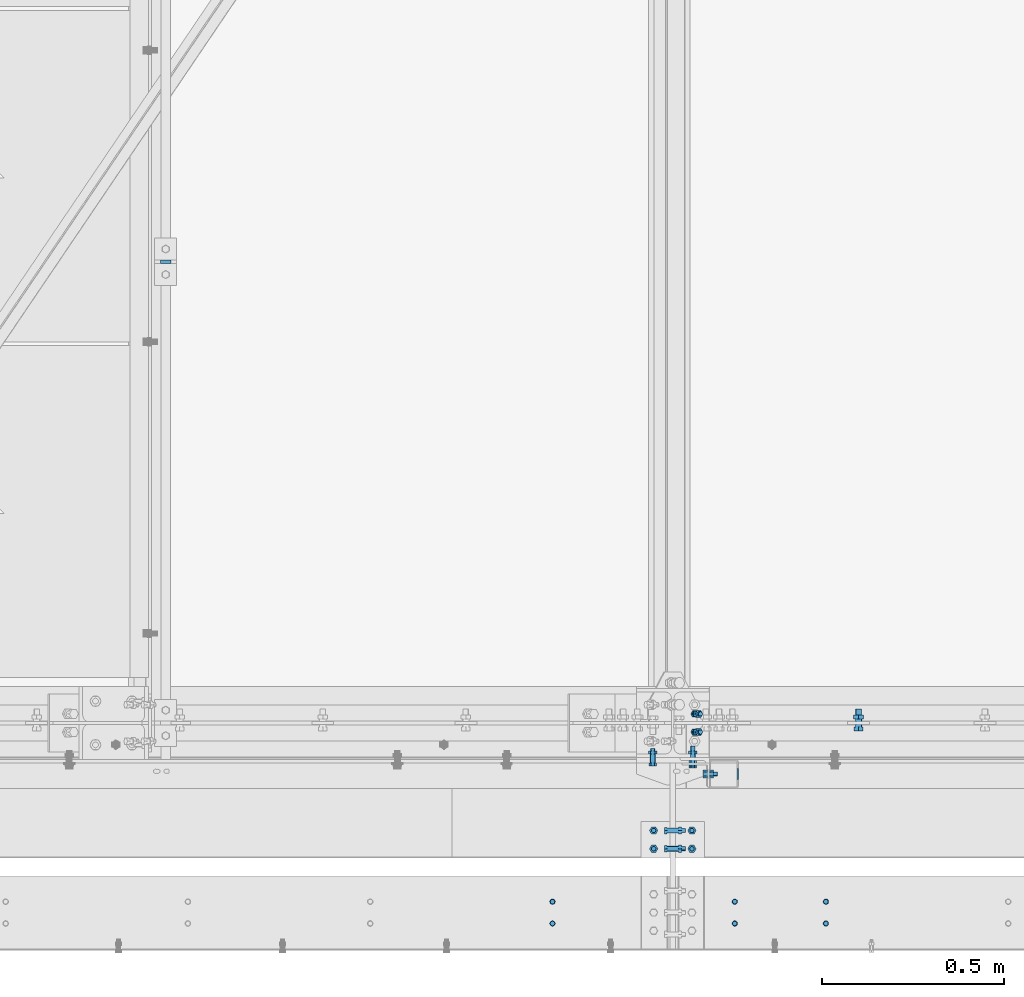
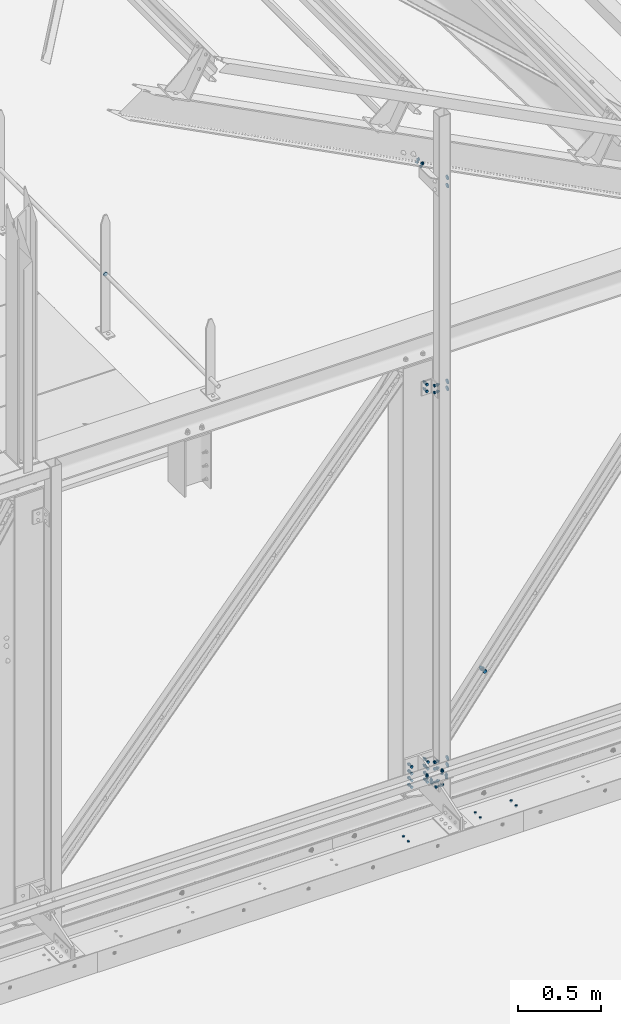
# One storey, part 268 of 362: 19 mechanical fasteners.
"""IFC2X3 building model written with IfcOpenShell, lengths in millimetres."""

from ifc_helpers import new_model, si_unit, frame, frame_2d, origin_with_axes, origin_2d_with_axis, place, context, subcontext, project, spatial, polyline, circle_curve, parameter, trimmed, segment, composite_curve, circle, outline, extrude, source, transform, mapped, material, type_object, element, save


model = new_model("IFC2X3")

# Units and contexts
model_context = context("Model", 3, precision=1e-05, world=origin_with_axes())
body_context = subcontext(model_context, "Body", "Model", "MODEL_VIEW")
ifc_project = project(units=[si_unit("LENGTHUNIT", "METRE", prefix="MILLI"), si_unit("AREAUNIT", "SQUARE_METRE"), si_unit("VOLUMEUNIT", "CUBIC_METRE"), si_unit("MASSUNIT", "GRAM", prefix="KILO"), si_unit("TIMEUNIT", "SECOND"), si_unit("PLANEANGLEUNIT", "RADIAN"), si_unit("SOLIDANGLEUNIT", "STERADIAN"), si_unit("THERMODYNAMICTEMPERATUREUNIT", "DEGREE_CELSIUS"), si_unit("LUMINOUSINTENSITYUNIT", "LUMEN")], contexts=[model_context])

# Site, building, storey
site_placement = place(None, origin_with_axes())
site = spatial("IfcSite", under=ifc_project, at=site_placement, Name="Undefined", CompositionType="ELEMENT")
building_placement = place(site_placement, origin_with_axes())
building = spatial("IfcBuilding", under=site, at=building_placement, Name="Undefined", CompositionType="ELEMENT")
storey_placement = place(building_placement, origin_with_axes())
storey = spatial("IfcBuildingStorey", under=building, at=storey_placement, Name="Undefined", CompositionType="ELEMENT", Elevation=0.0)

# Mechanical fasteners
ifc_material_1 = material(Name="8.8-SB-ZINGUE")
mechanical_fastener_type = type_object("IfcMechanicalFastenerType", Name="Bolt assembly")
shared_shape_1 = source(origin_with_axes(), body_context, "Body", "SweptSolid", [
    extrude(circle(Radius=7.0, at=origin_2d_with_axis()), frame((0.0, -8.5, 0.0), z_axis=(0.0, 1.0, 0.0), x_axis=(1.0, 0.0, 0.0)), (0.0, 0.0, 1.0), 8.6),
])
for number, where, z_axis, x_axis, name in (
    (1, (25844.9989211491, -490.0, 5229.99824538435), (-1.0, 0.0, 0.0), (0.0, -1.0, 0.0), "Bolt assembly"),
    (2, (26344.9989211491, -490.0, 5229.99824538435), (-1.0, 0.0, 0.0), (0.0, -1.0, 0.0), "Bolt assembly"),
    (3, (26594.9989211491, -490.0, 5229.99824538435), (-1.0, 0.0, 0.0), (0.0, -1.0, 0.0), "Bolt assembly"),
):
    element("IfcMechanicalFastener", number, at=place(storey_placement, frame(where, z_axis=z_axis, x_axis=x_axis)), inside=storey, type_object=mechanical_fastener_type, material=ifc_material_1, Name=name, NominalDiameter=12.0, NominalLength=8.5, context=body_context, shape_type="MappedRepresentation", body=[
        mapped(shared_shape_1, transform((0.0, 0.0, 0.0))),
        mapped(shared_shape_1, transform((60.0, 0.0, 0.0))),
    ])
shared_shape_2 = source(origin_with_axes(), body_context, "Body", "SweptSolid", [
    extrude(circle(Radius=7.0, at=origin_2d_with_axis()), frame((0.0, -7.5, 0.0), z_axis=(0.0, 1.0, 0.0), x_axis=(1.0, 0.0, 0.0)), (0.0, 0.0, 1.0), 15.0),
    extrude(circle(Radius=7.0, at=origin_2d_with_axis()), frame((0.0, -15.4, 0.0), z_axis=(0.0, 1.0, 0.0), x_axis=(1.0, 0.0, 0.0)), (0.0, 0.0, 1.0), 8.0),
    extrude(circle(Radius=7.0, at=origin_2d_with_axis()), frame((0.0, 7.39216762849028, 0.0), z_axis=(0.0, 1.0, 0.0), x_axis=(1.0, 0.0, 0.0)), (0.0, 0.0, 1.0), 8.1),
    extrude(outline(polyline([(10.39230484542, 0.0), (5.19615242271, 9.00000000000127), (-5.19615242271, 9.00000000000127), (-10.39230484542, 0.0), (-5.19615242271, -9.00000000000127), (5.19615242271, -9.00000000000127), (10.39230484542, 0.0)])), frame((0.0, -23.42, 0.0), z_axis=(0.0, 1.0, 0.0), x_axis=(1.0, 0.0, 0.0)), (0.0, 0.0, 1.0), 7.92),
    extrude(circle(Radius=6.0, at=origin_2d_with_axis()), frame((0.0, -15.5, 0.0), z_axis=(0.0, 1.0, 0.0), x_axis=(1.0, 0.0, 0.0)), (0.0, 0.0, 1.0), 50.0),
    extrude(outline(polyline([(11.5008173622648, 0.0), (5.7504086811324, 9.96000000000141), (-5.7504086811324, 9.96000000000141), (-11.5008173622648, 0.0), (-5.7504086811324, -9.96000000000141), (5.7504086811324, -9.96000000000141), (11.5008173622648, 0.0)])), frame((0.0, 15.4921676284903, 0.0), z_axis=(0.0, 1.0, 0.0), x_axis=(1.0, 0.0, 0.0)), (0.0, 0.0, 1.0), 7.92),
])
mechanical_fastener_1_placement = place(storey_placement, frame((26175.0, -320.0, 5394.99824538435), z_axis=(0.0, 1.0, 0.0), x_axis=(0.0, 0.0, 1.0)))
element("IfcMechanicalFastener", 4, at=mechanical_fastener_1_placement, inside=storey, type_object=mechanical_fastener_type, material=ifc_material_1, Name="Bolt assembly", NominalDiameter=12.0, NominalLength=50.0, context=body_context, shape_type="MappedRepresentation", body=[
    mapped(shared_shape_2, transform((0.0, 0.0, -25.0))),
    mapped(shared_shape_2, transform((0.0, 0.0, 25.0))),
])
shared_shape_3 = source(origin_with_axes(), body_context, "Body", "SweptSolid", [
    extrude(circle(Radius=7.0, at=origin_2d_with_axis()), frame((0.0, -0.100011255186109, 0.0), z_axis=(0.0, 1.0, 0.0), x_axis=(1.0, 0.0, 0.0)), (0.0, 0.0, 1.0), 4.1),
    extrude(circle(Radius=7.0, at=origin_2d_with_axis()), frame((0.0, -7.9, 0.0), z_axis=(0.0, 1.0, 0.0), x_axis=(1.0, 0.0, 0.0)), (0.0, 0.0, 1.0), 8.0),
    extrude(outline(polyline([(10.39230484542, 0.0), (5.19615242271, 9.00000000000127), (-5.19615242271, 9.00000000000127), (-10.39230484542, 0.0), (-5.19615242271, -9.00000000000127), (5.19615242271, -9.00000000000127), (10.39230484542, 0.0)])), frame((0.0, -15.92, 0.0), z_axis=(0.0, 1.0, 0.0), x_axis=(1.0, 0.0, 0.0)), (0.0, 0.0, 1.0), 7.92),
    extrude(circle(Radius=6.0, at=origin_2d_with_axis()), frame((0.0, -8.0, 0.0), z_axis=(0.0, 1.0, 0.0), x_axis=(1.0, 0.0, 0.0)), (0.0, 0.0, 1.0), 30.0),
    extrude(outline(polyline([(11.5008173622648, 0.0), (5.7504086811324, 9.96000000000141), (-5.7504086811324, 9.96000000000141), (-11.5008173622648, 0.0), (-5.7504086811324, -9.96000000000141), (5.7504086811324, -9.96000000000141), (11.5008173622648, 0.0)])), frame((0.0, 4.00000005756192, 0.0), z_axis=(0.0, 1.0, 0.0), x_axis=(1.0, 0.0, 0.0)), (0.0, 0.0, 1.0), 7.92),
])
for number, where, z_axis, x_axis, name in (
    (5, (26227.4921676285, -320.0, 5449.99824532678), (0.0, 1.0, 0.0), (-1.0, 0.0, 0.0), "Bolt assembly"),
    (6, (26122.5, -320.0, 5449.99824532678), (0.0, -1.0, 0.0), (1.0, 0.0, 0.0), "Bolt assembly"),
):
    element("IfcMechanicalFastener", number, at=place(storey_placement, frame(where, z_axis=z_axis, x_axis=x_axis)), inside=storey, type_object=mechanical_fastener_type, material=ifc_material_1, Name=name, NominalDiameter=12.0, NominalLength=30.0, context=body_context, shape_type="MappedRepresentation", body=[
        mapped(shared_shape_3, transform((0.0, 0.0, -25.0))),
        mapped(shared_shape_3, transform((0.0, 0.0, 25.0))),
    ])
shared_shape_4 = source(origin_with_axes(), body_context, "Body", "SweptSolid", [
    extrude(circle(Radius=7.0, at=origin_2d_with_axis()), frame((0.0, 4.89855588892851, 0.0), z_axis=(0.0, 1.0, 0.0), x_axis=(1.0, 0.0, 0.0)), (0.0, 0.0, 1.0), 10.1),
    extrude(circle(Radius=7.0, at=origin_2d_with_axis()), frame((0.0, -9.90144411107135, 0.0), z_axis=(0.0, 1.0, 0.0), x_axis=(1.0, 0.0, 0.0)), (0.0, 0.0, 1.0), 15.0),
    extrude(outline(polyline([(10.39230484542, 0.0), (5.19615242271, 9.00000000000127), (-5.19615242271, 9.00000000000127), (-10.39230484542, 0.0), (-5.19615242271, -9.00000000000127), (5.19615242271, -9.00000000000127), (10.39230484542, 0.0)])), frame((0.0, -17.9214441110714, 0.0), z_axis=(0.0, 1.0, 0.0), x_axis=(1.0, 0.0, 0.0)), (0.0, 0.0, 1.0), 7.92),
    extrude(circle(Radius=6.0, at=origin_2d_with_axis()), frame((0.0, -10.0014441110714, 0.0), z_axis=(0.0, 1.0, 0.0), x_axis=(1.0, 0.0, 0.0)), (0.0, 0.0, 1.0), 40.0),
    extrude(outline(polyline([(11.5008173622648, 0.0), (5.7504086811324, 9.96000000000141), (-5.7504086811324, 9.96000000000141), (-11.5008173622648, 0.0), (-5.7504086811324, -9.96000000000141), (5.7504086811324, -9.96000000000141), (11.5008173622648, 0.0)])), frame((0.0, 14.9985558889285, 0.0), z_axis=(0.0, 1.0, 0.0), x_axis=(1.0, 0.0, 0.0)), (0.0, 0.0, 1.0), 7.92),
])
mechanical_fastener_2_placement = place(storey_placement, frame((26229.9999023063, -99.9985558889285, 5290.00066228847), z_axis=(0.0, 0.0, 1.0), x_axis=(1.0, 0.0, 0.0)))
element("IfcMechanicalFastener", 7, at=mechanical_fastener_2_placement, inside=storey, type_object=mechanical_fastener_type, material=ifc_material_1, Name="Bolt assembly", NominalDiameter=12.0, NominalLength=40.0, context=body_context, shape_type="MappedRepresentation", body=[
    mapped(shared_shape_4, transform((0.0, 0.0, 25.0))),
    mapped(shared_shape_4, transform((0.0, 0.0, -25.0))),
])
mechanical_fastener_3_placement = place(storey_placement, frame((26120.0012970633, -99.9985558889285, 5290.00066228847), z_axis=(0.0, 0.0, -1.0), x_axis=(-1.0, 0.0, 0.0)))
element("IfcMechanicalFastener", 8, at=mechanical_fastener_3_placement, inside=storey, type_object=mechanical_fastener_type, material=ifc_material_1, Name="Bolt assembly", NominalDiameter=12.0, NominalLength=40.0, context=body_context, shape_type="MappedRepresentation", body=[
    mapped(shared_shape_4, transform((0.0, 0.0, -25.0))),
    mapped(shared_shape_4, transform((0.0, 0.0, 25.0))),
])
shared_shape_5 = source(origin_with_axes(), body_context, "Body", "SweptSolid", [
    extrude(circle(Radius=7.0, at=origin_2d_with_axis()), frame((0.0, -0.100011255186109, 0.0), z_axis=(0.0, 1.0, 0.0), x_axis=(1.0, 0.0, 0.0)), (0.0, 0.0, 1.0), 10.1),
    extrude(circle(Radius=7.0, at=origin_2d_with_axis()), frame((0.0, -14.899999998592, 0.0), z_axis=(0.0, 1.0, 0.0), x_axis=(1.0, 0.0, 0.0)), (0.0, 0.0, 1.0), 15.0),
    extrude(outline(polyline([(10.39230484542, 0.0), (5.19615242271, 9.00000000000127), (-5.19615242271, 9.00000000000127), (-10.39230484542, 0.0), (-5.19615242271, -9.00000000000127), (5.19615242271, -9.00000000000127), (10.39230484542, 0.0)])), frame((0.0, -22.919999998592, 0.0), z_axis=(0.0, 1.0, 0.0), x_axis=(1.0, 0.0, 0.0)), (0.0, 0.0, 1.0), 7.92),
    extrude(circle(Radius=6.0, at=origin_2d_with_axis()), frame((0.0, -14.999999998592, 0.0), z_axis=(0.0, 1.0, 0.0), x_axis=(1.0, 0.0, 0.0)), (0.0, 0.0, 1.0), 40.0),
    extrude(outline(polyline([(11.5008173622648, 0.0), (5.7504086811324, 9.96000000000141), (-5.7504086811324, 9.96000000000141), (-11.5008173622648, 0.0), (-5.7504086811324, -9.96000000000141), (5.7504086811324, -9.96000000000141), (11.5008173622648, 0.0)])), frame((0.0, 10.0000000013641, 0.0), z_axis=(0.0, 1.0, 0.0), x_axis=(1.0, 0.0, 0.0)), (0.0, 0.0, 1.0), 7.92),
])
mechanical_fastener_4_placement = place(storey_placement, frame((26120.0094335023, -95.0000000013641, 5390.00066228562), z_axis=(0.0, 0.0, -1.0), x_axis=(-1.0, 0.0, 0.0)))
element("IfcMechanicalFastener", 9, at=mechanical_fastener_4_placement, inside=storey, type_object=mechanical_fastener_type, material=ifc_material_1, Name="Bolt assembly", NominalDiameter=12.0, NominalLength=40.0, context=body_context, shape_type="MappedRepresentation", body=[
    mapped(shared_shape_5, transform((0.0, 0.0, -25.0))),
    mapped(shared_shape_5, transform((0.0, 0.0, 25.0))),
])
shared_shape_6 = source(origin_with_axes(), body_context, "Body", "SweptSolid", [
    extrude(circle(Radius=7.0, at=origin_2d_with_axis()), frame((0.0, -0.108038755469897, 0.0), z_axis=(0.0, 1.0, 0.0), x_axis=(1.0, 0.0, 0.0)), (0.0, 0.0, 1.0), 4.1),
    extrude(outline(composite_curve([segment(polyline([(-5.5, 7.0), (5.5, 7.0)]), True, "CONTINUOUS"), segment(trimmed(circle_curve(frame_2d((5.5, 0.0), x_axis=(0.0, 1.0)), 7.0), [parameter(0.0)], [parameter(3.14159265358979)], False, "PARAMETER"), True, "CONTINUOUS"), segment(polyline([(5.5, -7.0), (-5.5, -7.0)]), True, "CONTINUOUS"), segment(trimmed(circle_curve(frame_2d((-5.5, 0.0), x_axis=(0.0, -1.0)), 7.0), [parameter(0.0)], [parameter(3.14159265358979)], False, "PARAMETER"), True, "DISCONTINUOUS")], self_intersect=False)), frame((0.0, -4.90000000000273, 0.0), z_axis=(0.0, 1.0, 0.0), x_axis=(1.0, 0.0, 0.0)), (0.0, 0.0, 1.0), 5.0),
    extrude(outline(polyline([(10.39230484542, 0.0), (5.19615242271, 9.00000000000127), (-5.19615242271, 9.00000000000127), (-10.39230484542, 0.0), (-5.19615242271, -9.00000000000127), (5.19615242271, -9.00000000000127), (10.39230484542, 0.0)])), frame((0.0, -16.8799999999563, 0.0), z_axis=(0.0, 1.0, 0.0), x_axis=(1.0, 0.0, 0.0)), (0.0, 0.0, 1.0), 7.92),
    extrude(circle(Radius=6.0, at=origin_2d_with_axis()), frame((0.0, -8.95999999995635, 0.0), z_axis=(0.0, 1.0, 0.0), x_axis=(1.0, 0.0, 0.0)), (0.0, 0.0, 1.0), 30.0),
    extrude(circle(Radius=10.8, at=origin_2d_with_axis()), frame((0.0, -8.95999999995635, 0.0), z_axis=(0.0, 1.0, 0.0), x_axis=(1.0, 0.0, 0.0)), (0.0, 0.0, 1.0), 3.96),
    extrude(outline(polyline([(11.5008173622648, 0.0), (5.7504086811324, 9.96000000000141), (-5.7504086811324, 9.96000000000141), (-11.5008173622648, 0.0), (-5.7504086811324, -9.96000000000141), (5.7504086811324, -9.96000000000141), (11.5008173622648, 0.0)])), frame((0.0, 3.9919612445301, 0.0), z_axis=(0.0, 1.0, 0.0), x_axis=(1.0, 0.0, 0.0)), (0.0, 0.0, 1.0), 7.92),
])
mechanical_fastener_5_placement = place(storey_placement, frame((26275.0080387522, -140.000000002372, 5390.00066228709), z_axis=(0.0, 0.0, -1.0), x_axis=(0.0, 1.0, 0.0)))
element("IfcMechanicalFastener", 10, at=mechanical_fastener_5_placement, inside=storey, type_object=mechanical_fastener_type, material=ifc_material_1, Name="Bolt assembly", NominalDiameter=12.0, NominalLength=30.0, context=body_context, shape_type="MappedRepresentation", body=[
    mapped(shared_shape_6, transform((0.0, 0.0, 25.0))),
    mapped(shared_shape_6, transform((0.0, 0.0, -25.0))),
])
shared_shape_7 = source(origin_with_axes(), body_context, "Body", "SweptSolid", [
    extrude(circle(Radius=7.0, at=origin_2d_with_axis()), frame((0.0, -0.100011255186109, 0.0), z_axis=(0.0, 1.0, 0.0), x_axis=(1.0, 0.0, 0.0)), (0.0, 0.0, 1.0), 10.1),
    extrude(circle(Radius=7.0, at=origin_2d_with_axis()), frame((0.0, -14.999999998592, 0.0), z_axis=(0.0, 1.0, 0.0), x_axis=(1.0, 0.0, 0.0)), (0.0, 0.0, 1.0), 15.0),
    extrude(circle(Radius=7.0, at=origin_2d_with_axis()), frame((0.0, -19.900541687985, 0.0), z_axis=(0.0, 1.0, 0.0), x_axis=(1.0, 0.0, 0.0)), (0.0, 0.0, 1.0), 5.0),
    extrude(outline(polyline([(10.39230484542, 0.0), (5.19615242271, 9.00000000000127), (-5.19615242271, 9.00000000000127), (-10.39230484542, 0.0), (-5.19615242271, -9.00000000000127), (5.19615242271, -9.00000000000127), (10.39230484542, 0.0)])), frame((0.0, -27.920541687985, 0.0), z_axis=(0.0, 1.0, 0.0), x_axis=(1.0, 0.0, 0.0)), (0.0, 0.0, 1.0), 7.92),
    extrude(circle(Radius=6.0, at=origin_2d_with_axis()), frame((0.0, -20.000541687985, 0.0), z_axis=(0.0, 1.0, 0.0), x_axis=(1.0, 0.0, 0.0)), (0.0, 0.0, 1.0), 50.0),
    extrude(outline(polyline([(11.5008173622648, 0.0), (5.7504086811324, 9.96000000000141), (-5.7504086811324, 9.96000000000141), (-11.5008173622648, 0.0), (-5.7504086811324, -9.96000000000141), (5.7504086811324, -9.96000000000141), (11.5008173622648, 0.0)])), frame((0.0, 10.0000000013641, 0.0), z_axis=(0.0, 1.0, 0.0), x_axis=(1.0, 0.0, 0.0)), (0.0, 0.0, 1.0), 7.92),
])
mechanical_fastener_6_placement = place(storey_placement, frame((26230.0080387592, -95.0000000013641, 5390.00066228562), z_axis=(0.0, 0.0, 1.0), x_axis=(1.0, 0.0, 0.0)))
element("IfcMechanicalFastener", 11, at=mechanical_fastener_6_placement, inside=storey, type_object=mechanical_fastener_type, material=ifc_material_1, Name="Bolt assembly", NominalDiameter=12.0, NominalLength=50.0, context=body_context, shape_type="MappedRepresentation", body=[
    mapped(shared_shape_7, transform((0.0, 0.0, 25.0))),
    mapped(shared_shape_7, transform((0.0, 0.0, -25.0))),
])
ifc_material_2 = material(Name="6.8")
shared_shape_8 = source(origin_with_axes(), body_context, "Body", "SweptSolid", [
    extrude(circle(Radius=15.0, at=origin_2d_with_axis()), frame((0.0, 0.0, 0.0), z_axis=(0.0, 1.0, 0.0), x_axis=(1.0, 0.0, 0.0)), (0.0, 0.0, 1.0), 4.1),
])
mechanical_fastener_7_placement = place(storey_placement, frame((26354.9999999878, -139.999999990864, 9626.46485548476), z_axis=(0.0, -1.0, 0.0), x_axis=(0.0, 0.0, 1.0)))
element("IfcMechanicalFastener", 12, at=mechanical_fastener_7_placement, inside=storey, type_object=mechanical_fastener_type, material=ifc_material_2, Name="Bolt assembly", NominalDiameter=30.0, NominalLength=4.0, context=body_context, shape_type="MappedRepresentation", body=[
    mapped(shared_shape_8, transform((0.0, 0.0, 0.0))),
    mapped(shared_shape_8, transform((60.0, 0.0, 0.0))),
])
shared_shape_9 = source(origin_with_axes(), body_context, "Body", "SweptSolid", [
    extrude(circle(Radius=15.0, at=origin_2d_with_axis()), frame((0.0, -4.00617860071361, 0.0), z_axis=(0.0, 1.0, 0.0), x_axis=(1.0, 0.0, 0.0)), (0.0, 0.0, 1.0), 4.1),
])
for number, where, z_axis, x_axis, name in (
    (13, (26355.0061785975, -139.999999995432, 8160.00066228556), (0.0, 0.0, -1.0), (0.0, 1.0, 0.0), "Bolt assembly"),
    (14, (26355.0061785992, -139.999999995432, 5390.00066228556), (0.0, 0.0, -1.0), (0.0, 1.0, 0.0), "Bolt assembly"),
):
    element("IfcMechanicalFastener", number, at=place(storey_placement, frame(where, z_axis=z_axis, x_axis=x_axis)), inside=storey, type_object=mechanical_fastener_type, material=ifc_material_2, Name=name, NominalDiameter=30.0, NominalLength=4.0, context=body_context, shape_type="MappedRepresentation", body=[
        mapped(shared_shape_9, transform((0.0, 0.0, 25.0))),
        mapped(shared_shape_9, transform((0.0, 0.0, -25.0))),
    ])
shared_shape_10 = source(origin_with_axes(), body_context, "Body", "SweptSolid", [
    extrude(circle(Radius=7.0, at=origin_2d_with_axis()), frame((0.0, -0.106178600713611, 0.0), z_axis=(0.0, 1.0, 0.0), x_axis=(1.0, 0.0, 0.0)), (0.0, 0.0, 1.0), 4.1),
    extrude(circle(Radius=7.0, at=origin_2d_with_axis()), frame((0.0, -7.9, 0.0), z_axis=(0.0, 1.0, 0.0), x_axis=(1.0, 0.0, 0.0)), (0.0, 0.0, 1.0), 8.0),
    extrude(outline(polyline([(10.39230484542, 0.0), (5.19615242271, 9.00000000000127), (-5.19615242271, 9.00000000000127), (-10.39230484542, 0.0), (-5.19615242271, -9.00000000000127), (5.19615242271, -9.00000000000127), (10.39230484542, 0.0)])), frame((0.0, -15.92, 0.0), z_axis=(0.0, 1.0, 0.0), x_axis=(1.0, 0.0, 0.0)), (0.0, 0.0, 1.0), 7.92),
    extrude(circle(Radius=6.0, at=origin_2d_with_axis()), frame((0.0, -8.0, 0.0), z_axis=(0.0, 1.0, 0.0), x_axis=(1.0, 0.0, 0.0)), (0.0, 0.0, 1.0), 30.0),
    extrude(outline(polyline([(11.5008173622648, 0.0), (5.7504086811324, 9.96000000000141), (-5.7504086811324, 9.96000000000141), (-11.5008173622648, 0.0), (-5.7504086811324, -9.96000000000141), (5.7504086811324, -9.96000000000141), (11.5008173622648, 0.0)])), frame((0.0, 3.99382139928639, 0.0), z_axis=(0.0, 1.0, 0.0), x_axis=(1.0, 0.0, 0.0)), (0.0, 0.0, 1.0), 7.92),
])
mechanical_fastener_8_placement = place(storey_placement, frame((26275.0061785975, -139.999999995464, 8160.00066228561), z_axis=(0.0, 0.0, -1.0), x_axis=(0.0, 1.0, 0.0)))
element("IfcMechanicalFastener", 15, at=mechanical_fastener_8_placement, inside=storey, type_object=mechanical_fastener_type, material=ifc_material_1, Name="Bolt assembly", NominalDiameter=12.0, NominalLength=30.0, context=body_context, shape_type="MappedRepresentation", body=[
    mapped(shared_shape_10, transform((0.0, 0.0, 25.0))),
    mapped(shared_shape_10, transform((0.0, 0.0, -25.0))),
])
shared_shape_11 = source(origin_with_axes(), body_context, "Body", "SweptSolid", [
    extrude(circle(Radius=7.0, at=origin_2d_with_axis()), frame((0.0, -0.100011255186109, 0.0), z_axis=(0.0, 1.0, 0.0), x_axis=(1.0, 0.0, 0.0)), (0.0, 0.0, 1.0), 10.1),
    extrude(circle(Radius=7.0, at=origin_2d_with_axis()), frame((0.0, -7.9, 0.0), z_axis=(0.0, 1.0, 0.0), x_axis=(1.0, 0.0, 0.0)), (0.0, 0.0, 1.0), 8.0),
    extrude(outline(polyline([(10.39230484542, 0.0), (5.19615242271, 9.00000000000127), (-5.19615242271, 9.00000000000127), (-10.39230484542, 0.0), (-5.19615242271, -9.00000000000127), (5.19615242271, -9.00000000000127), (10.39230484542, 0.0)])), frame((0.0, -15.92, 0.0), z_axis=(0.0, 1.0, 0.0), x_axis=(1.0, 0.0, 0.0)), (0.0, 0.0, 1.0), 7.92),
    extrude(circle(Radius=6.0, at=origin_2d_with_axis()), frame((0.0, -8.0, 0.0), z_axis=(0.0, 1.0, 0.0), x_axis=(1.0, 0.0, 0.0)), (0.0, 0.0, 1.0), 40.0),
    extrude(outline(polyline([(11.5008173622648, 0.0), (5.7504086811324, 9.96000000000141), (-5.7504086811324, 9.96000000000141), (-11.5008173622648, 0.0), (-5.7504086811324, -9.96000000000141), (5.7504086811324, -9.96000000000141), (11.5008173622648, 0.0)])), frame((0.0, 10.0000000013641, 0.0), z_axis=(0.0, 1.0, 0.0), x_axis=(1.0, 0.0, 0.0)), (0.0, 0.0, 1.0), 7.92),
])
mechanical_fastener_9_placement = place(storey_placement, frame((26230.0061785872, -94.9999999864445, 8160.00066227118), z_axis=(0.0, 0.0, 1.0), x_axis=(1.0, 0.0, 0.0)))
element("IfcMechanicalFastener", 16, at=mechanical_fastener_9_placement, inside=storey, type_object=mechanical_fastener_type, material=ifc_material_1, Name="Bolt assembly", NominalDiameter=12.0, NominalLength=40.0, context=body_context, shape_type="MappedRepresentation", body=[
    mapped(shared_shape_11, transform((0.0, 0.0, 25.0))),
    mapped(shared_shape_11, transform((0.0, 0.0, -25.0))),
])
shared_shape_12 = source(origin_with_axes(), body_context, "Body", "SweptSolid", [
    extrude(circle(Radius=7.0, at=origin_2d_with_axis()), frame((0.0, -0.100011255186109, 0.0), z_axis=(0.0, 1.0, 0.0), x_axis=(1.0, 0.0, 0.0)), (0.0, 0.0, 1.0), 8.6),
    extrude(circle(Radius=7.0, at=origin_2d_with_axis()), frame((0.0, -4.90000000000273, 0.0), z_axis=(0.0, 1.0, 0.0), x_axis=(1.0, 0.0, 0.0)), (0.0, 0.0, 1.0), 5.0),
    extrude(outline(polyline([(10.39230484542, 0.0), (5.19615242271, 9.00000000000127), (-5.19615242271, 9.00000000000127), (-10.39230484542, 0.0), (-5.19615242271, -9.00000000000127), (5.19615242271, -9.00000000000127), (10.39230484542, 0.0)])), frame((0.0, -12.9200004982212, 0.0), z_axis=(0.0, 1.0, 0.0), x_axis=(1.0, 0.0, 0.0)), (0.0, 0.0, 1.0), 7.92),
    extrude(circle(Radius=6.0, at=origin_2d_with_axis()), frame((0.0, -5.00000000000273, 0.0), z_axis=(0.0, 1.0, 0.0), x_axis=(1.0, 0.0, 0.0)), (0.0, 0.0, 1.0), 30.0),
    extrude(outline(polyline([(11.5008173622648, 0.0), (5.7504086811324, 9.96000000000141), (-5.7504086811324, 9.96000000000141), (-11.5008173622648, 0.0), (-5.7504086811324, -9.96000000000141), (5.7504086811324, -9.96000000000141), (11.5008173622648, 0.0)])), frame((0.0, 8.49999994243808, 0.0), z_axis=(0.0, 1.0, 0.0), x_axis=(1.0, 0.0, 0.0)), (0.0, 0.0, 1.0), 7.92),
])
mechanical_fastener_10_placement = place(storey_placement, frame((26239.485175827, 4.52226345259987e-09, 9744.87270450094), z_axis=(0.0, -1.0, 0.0), x_axis=(0.887870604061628, 0.0, -0.460093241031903)))
element("IfcMechanicalFastener", 17, at=mechanical_fastener_10_placement, inside=storey, type_object=mechanical_fastener_type, material=ifc_material_1, Name="Bolt assembly", NominalDiameter=12.0, NominalLength=30.0, context=body_context, shape_type="MappedRepresentation", body=[
    mapped(shared_shape_12, transform((0.0, 0.0, -25.0))),
    mapped(shared_shape_12, transform((0.0, 0.0, 25.0))),
])
shared_shape_13 = source(origin_with_axes(), body_context, "Body", "SweptSolid", [
    extrude(circle(Radius=9.0, at=origin_2d_with_axis()), frame((0.0, -10.9000000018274, 0.0), z_axis=(0.0, 1.0, 0.0), x_axis=(1.0, 0.0, 0.0)), (0.0, 0.0, 1.0), 6.0),
    extrude(circle(Radius=9.0, at=origin_2d_with_axis()), frame((0.0, 4.9000000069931, 0.0), z_axis=(0.0, 1.0, 0.0), x_axis=(1.0, 0.0, 0.0)), (0.0, 0.0, 1.0), 6.1),
    extrude(circle(Radius=9.0, at=origin_2d_with_axis()), frame((0.0, -3.99999923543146, 0.0), z_axis=(0.0, 1.0, 0.0), x_axis=(1.0, 0.0, 0.0)), (0.0, 0.0, 1.0), 8.0),
    extrude(outline(polyline([(13.85640646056, 0.0), (6.92820323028, 12.0000000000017), (-6.92820323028, 12.0000000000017), (-13.85640646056, 0.0), (-6.92820323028, -12.0000000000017), (6.92820323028, -12.0000000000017), (13.85640646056, 0.0)])), frame((0.0, -21.5600000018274, 0.0), z_axis=(0.0, 1.0, 0.0), x_axis=(1.0, 0.0, 0.0)), (0.0, 0.0, 1.0), 10.56),
    extrude(circle(Radius=8.0, at=origin_2d_with_axis()), frame((0.0, -11.0000000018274, 0.0), z_axis=(0.0, 1.0, 0.0), x_axis=(1.0, 0.0, 0.0)), (0.0, 0.0, 1.0), 50.0),
    extrude(outline(polyline([(15.3344231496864, 0.0), (7.6672115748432, 13.2800000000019), (-7.6672115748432, 13.2800000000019), (-15.3344231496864, 0.0), (-7.6672115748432, -13.2800000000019), (7.6672115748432, -13.2800000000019), (15.3344231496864, 0.0)])), frame((0.0, 11.0000000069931, 0.0), z_axis=(0.0, 1.0, 0.0), x_axis=(1.0, 0.0, 0.0)), (0.0, 0.0, 1.0), 10.56),
])
mechanical_fastener_11_placement = place(storey_placement, frame((26684.6272425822, 0.0, 5861.73904073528), z_axis=(1.0, 0.0, 0.0), x_axis=(0.0, 0.0, -1.0)))
element("IfcMechanicalFastener", 18, at=mechanical_fastener_11_placement, inside=storey, type_object=mechanical_fastener_type, material=ifc_material_1, Name="Bolt assembly", NominalDiameter=16.0, NominalLength=50.0, context=body_context, shape_type="MappedRepresentation", body=[
    mapped(shared_shape_13, transform((0.0, 0.0, 0.0))),
])
shared_shape_14 = source(origin_with_axes(), body_context, "Body", "SweptSolid", [
    extrude(circle(Radius=14.0, at=origin_2d_with_axis()), frame((0.0, -5.00000000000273, 0.0), z_axis=(0.0, 1.0, 0.0), x_axis=(1.0, 0.0, 0.0)), (0.0, 0.0, 1.0), 10.1),
])
mechanical_fastener_12_placement = place(storey_placement, frame((24783.9915989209, 1265.00344013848, 8673.80000654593), z_axis=(0.0, 0.0, 1.0), x_axis=(-1.0, 0.0, 0.0)))
element("IfcMechanicalFastener", 19, at=mechanical_fastener_12_placement, inside=storey, type_object=mechanical_fastener_type, material=ifc_material_2, Name="Bolt assembly", NominalDiameter=27.0, NominalLength=10.0, context=body_context, shape_type="MappedRepresentation", body=[
    mapped(shared_shape_14, transform((0.0, 0.0, 0.0))),
])

save(model, "model.ifc")
